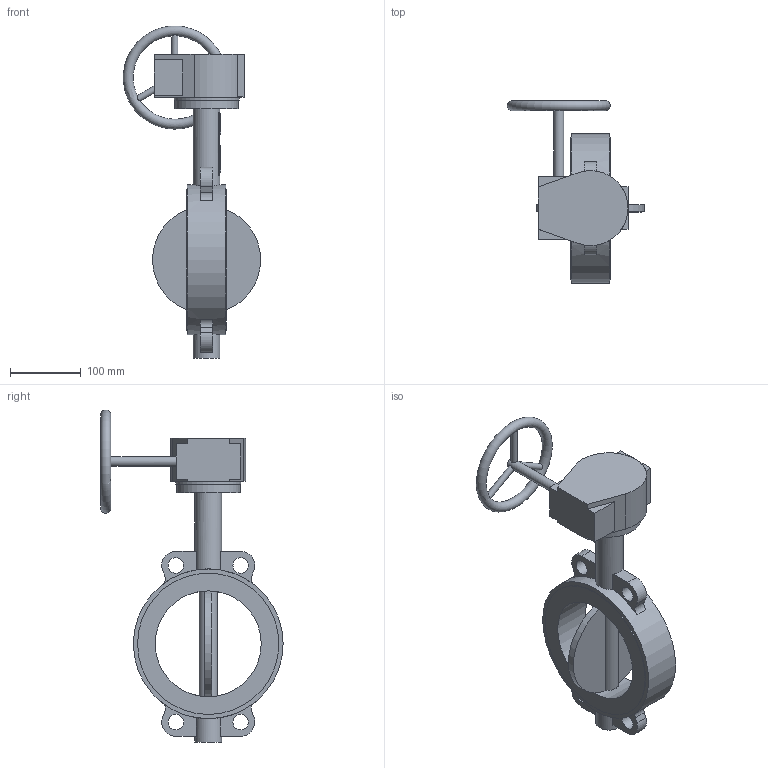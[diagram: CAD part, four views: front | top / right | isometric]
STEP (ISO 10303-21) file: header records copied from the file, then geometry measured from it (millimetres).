
FILE_DESCRIPTION(('STEP AP203'), '1');
FILE_NAME('青蜮铕 017WDN150 疱潴牝铕', '', ('UNSPECIFIED'), ('UNSPECIFIED'), 'ASCON STEP Converter 1.6', 'ASCON Math Kernel', '');
FILE_SCHEMA(('CONFIG_CONTROL_DESIGN'));
Length unit declared in the file: millimetre
Bounding box: 194.25 x 258 x 469.97 mm (x, y, z)
Volume: 800033.6 mm3; surface area: 271789.1 mm2
Topology: 1 solids, 2 shells, 670 faces, 1954 edges, 1257 vertices
Faces by surface type: cylinder 468, plane 201, torus 1
Full cylindrical faces by diameter (mm): 6.7 x4, 9 x3, 10 x4, 14 x1, 18.9 x1, 22 x4, 38 x2, 55 x1, 90 x1, 92 x1, 150 x1, 200 x2, 212 x1
Entity records: 29465 total; most frequent: CARTESIAN_POINT 5535, DIRECTION 4228, ORIENTED_EDGE 3785, EDGE_CURVE 1924, AXIS2_PLACEMENT_3D 1658, VERTEX_POINT 1255, CIRCLE 988, LINE 912
